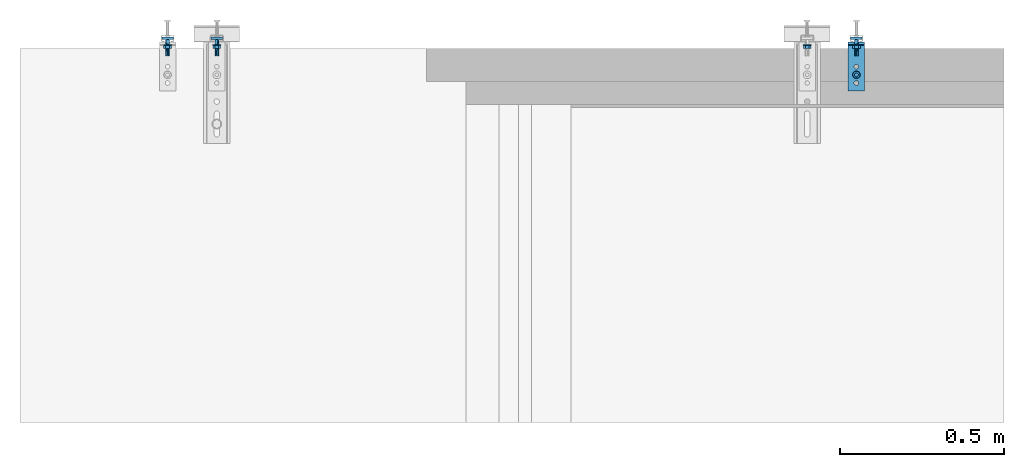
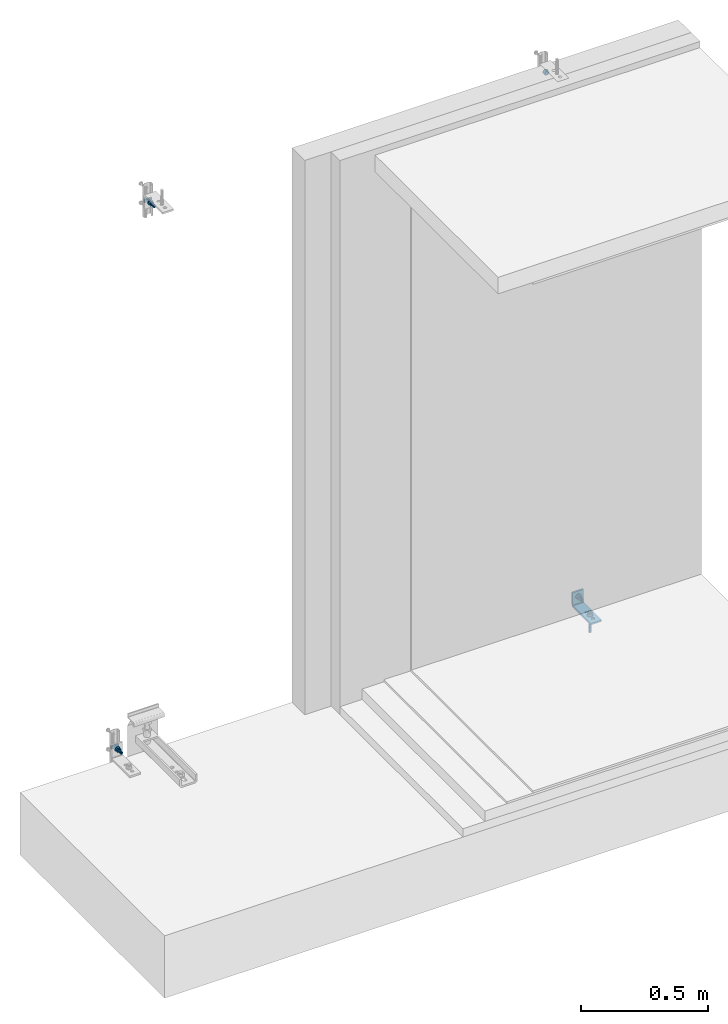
# One storey, part 5 of 7: 13 assemblies, 4 openings.
"""IFC2X3 building model written with IfcOpenShell, lengths in metres."""

from ifc_helpers import new_model, entity, si_unit, converted_unit, derived_unit, direction, frame, frame_2d, origin, place, context, subcontext, project, spatial, polyline, circle_curve, parameter, trimmed, segment, composite_curve, circle, hollow_circle, outline, extrude, faceted_brep, source, transform, mapped, material, type_object, type_shapes, element, save


model = new_model("IFC2X3")

# Units and contexts
model_context = context("Model", 3, precision=1e-05, world=origin(), true_north=direction((6.123031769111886e-17, 1.0)))
body_context = subcontext(model_context, "Body", "Model", "MODEL_VIEW")
ifc_project = project(units=[si_unit("LENGTHUNIT", "METRE"), si_unit("AREAUNIT", "SQUARE_METRE"), converted_unit("PLANEANGLEUNIT", "DEGREE", entity("IfcPlaneAngleMeasure", 0.017453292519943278), si_unit("PLANEANGLEUNIT", "RADIAN"), dimensions=[0, 0, 0, 0, 0, 0, 0]), si_unit("VOLUMEUNIT", "CUBIC_METRE"), derived_unit("THERMALTRANSMITTANCEUNIT", [(si_unit("MASSUNIT", "GRAM", prefix="KILO"), 1), (si_unit("THERMODYNAMICTEMPERATUREUNIT", "KELVIN"), -1), (si_unit("TIMEUNIT", "SECOND"), -3)]), derived_unit("USERDEFINED", [(si_unit("MASSUNIT", "GRAM", prefix="KILO"), 1), (si_unit("THERMODYNAMICTEMPERATUREUNIT", "KELVIN"), -1), (si_unit("TIMEUNIT", "SECOND"), -2)]), derived_unit("THERMALRESISTANCEUNIT", [(si_unit("MASSUNIT", "GRAM", prefix="KILO"), -1), (si_unit("TIMEUNIT", "SECOND"), 3), (si_unit("THERMODYNAMICTEMPERATUREUNIT", "KELVIN"), 1)]), derived_unit("MASSDENSITYUNIT", [(si_unit("MASSUNIT", "GRAM", prefix="KILO"), 1), (si_unit("LENGTHUNIT", "METRE"), -3)]), derived_unit("VAPORPERMEABILITYUNIT", [(si_unit("LENGTHUNIT", "METRE"), -1), (si_unit("TIMEUNIT", "SECOND"), 1)]), derived_unit("USERDEFINED", [(si_unit("MASSUNIT", "GRAM", prefix="KILO"), 1), (si_unit("TIMEUNIT", "SECOND"), -3), (si_unit("LENGTHUNIT", "METRE"), 3), (si_unit("ELECTRICCURRENTUNIT", "AMPERE"), -2)]), si_unit("PRESSUREUNIT", "PASCAL")], contexts=[model_context])

# Site, building, storey
site_placement = place(None, origin())
site = spatial("IfcSite", under=ifc_project, at=site_placement, Name="Default", CompositionType="ELEMENT")
building_placement = place(site_placement, origin())
building = spatial("IfcBuilding", under=site, at=building_placement, CompositionType="ELEMENT")
storey_placement = place(building_placement, origin())
storey = spatial("IfcBuildingStorey", under=building, at=storey_placement, Name="L0", CompositionType="ELEMENT", Elevation=0.0)

# Assemblies
ifc_material = material(Name="REC_Acero, S 275JR (Zincado)")
type_product_1 = type_object("IfcTypeProduct", Name="REC-TPH1250:TPH1250", material=ifc_material)
shared_shape_1 = source(origin(), body_context, "Body", "Brep", [
    faceted_brep([(-0.005512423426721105, 0.006999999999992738, 0.04999470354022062), (-0.005512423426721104, 0.006999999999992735, 0.050994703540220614), (-0.017500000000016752, 0.006999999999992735, 0.050994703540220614), (-0.017500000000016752, 0.006999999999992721, 0.05849470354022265), (0.01750000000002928, 0.006999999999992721, 0.05849470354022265), (0.01750000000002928, 0.006999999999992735, 0.0509947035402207), (0.00551242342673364, 0.006999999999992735, 0.0509947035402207), (0.00551242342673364, 0.006999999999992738, 0.04999470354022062), (-0.005512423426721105, -0.007000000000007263, 0.04999470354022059), (0.00551242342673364, -0.007000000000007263, 0.04999470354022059), (0.00551242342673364, -0.007000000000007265, 0.05099470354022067), (0.01750000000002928, -0.007000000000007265, 0.05099470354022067), (0.01750000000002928, -0.007000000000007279, 0.058494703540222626), (-0.017500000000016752, -0.007000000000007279, 0.058494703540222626), (-0.017500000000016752, -0.007000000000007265, 0.050994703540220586), (-0.005512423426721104, -0.007000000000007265, 0.050994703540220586)], [[[0, 1, 2, 3, 4, 5, 6, 7]], [[8, 9, 10, 11, 12, 13, 14, 15]], [[1, 0, 8, 15]], [[3, 2, 14, 13]], [[4, 3, 13, 12]], [[5, 4, 12, 11]], [[6, 5, 11, 10]], [[7, 6, 10, 9]], [[0, 7, 9, 8]], [[2, 1, 15, 14]]]),
    faceted_brep([(0.002796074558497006, -0.002860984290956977, 0.0489420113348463), (-3.2352566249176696e-05, -0.004032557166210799, 0.0489420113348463), (-0.0028607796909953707, -0.002860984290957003, 0.0489420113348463), (-0.004032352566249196, -3.255716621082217e-05, 0.048942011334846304), (-0.0028607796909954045, 0.0027958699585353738, 0.048942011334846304), (-3.235256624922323e-05, 0.0039674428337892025, 0.04894201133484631), (0.0027960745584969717, 0.0027958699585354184, 0.048942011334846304), (0.00396764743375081, -3.2557166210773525e-05, 0.048942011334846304), (0.002796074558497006, -0.002860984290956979, 0.0499947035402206), (0.00396764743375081, -3.255716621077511e-05, 0.04999470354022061), (0.0027960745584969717, 0.0027958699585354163, 0.04999470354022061), (-3.235256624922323e-05, 0.0039674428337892, 0.04999470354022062), (-0.0028607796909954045, 0.0027958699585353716, 0.04999470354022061), (-0.004032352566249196, -3.2557166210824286e-05, 0.04999470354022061), (-0.0028607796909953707, -0.002860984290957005, 0.0499947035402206), (-3.2352566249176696e-05, -0.0040325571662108, 0.0499947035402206)], [[[0, 1, 2, 3, 4, 5, 6, 7]], [[8, 9, 10, 11, 12, 13, 14, 15]], [[1, 0, 8, 15]], [[2, 1, 15, 14]], [[3, 2, 14, 13]], [[4, 3, 13, 12]], [[5, 4, 12, 11]], [[6, 5, 11, 10]], [[7, 6, 10, 9]], [[0, 7, 9, 8]]]),
    faceted_brep([(0.004541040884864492, -0.00392160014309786, 0.0), (0.0008991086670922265, -0.005932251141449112, 0.0), (0.0008991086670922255, 0.00593225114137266, 0.0), (0.004555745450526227, 0.0039045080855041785, 0.0), (0.005999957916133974, -2.2472309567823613e-05, 0.0), (-0.0008991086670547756, -0.005932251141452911, 0.0), (-0.004556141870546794, -0.00390404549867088, 0.0), (-0.005999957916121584, 2.2472309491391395e-05, 0.0), (-0.004541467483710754, 0.0039211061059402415, 0.0), (-0.0008991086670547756, 0.005932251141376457, 0.0), (2.2472309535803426e-05, 0.0059999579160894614, 0.04894201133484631), (-0.0015311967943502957, 0.005801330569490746, 0.04894201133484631), (-0.002980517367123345, 0.005207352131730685, 0.04894201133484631), (-0.004226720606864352, 0.004258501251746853, 0.04894201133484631), (-0.005184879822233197, 0.0030194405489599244, 0.04894201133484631), (-0.005789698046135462, 0.0015746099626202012, 0.048942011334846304), (-0.005999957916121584, 2.247230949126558e-05, 0.048942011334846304), (-0.005801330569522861, -0.0015311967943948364, 0.048942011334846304), (-0.005207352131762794, -0.0029805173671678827, 0.0489420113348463), (-0.004258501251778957, -0.004226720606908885, 0.0489420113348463), (-0.003019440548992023, -0.005184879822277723, 0.0489420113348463), (-0.001574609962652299, -0.005789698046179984, 0.0489420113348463), (-2.2472309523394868e-05, -0.005999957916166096, 0.0489420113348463), (0.0015311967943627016, -0.005801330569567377, 0.0489420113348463), (0.002980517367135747, -0.005207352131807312, 0.0489420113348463), (0.0042267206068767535, -0.004258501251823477, 0.0489420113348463), (0.005184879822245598, -0.0030194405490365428, 0.0489420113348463), (0.005789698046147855, -0.0015746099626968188, 0.048942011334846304), (0.005999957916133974, -2.2472309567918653e-05, 0.048942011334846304), (0.005801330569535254, 0.0015311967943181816, 0.048942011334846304), (0.005207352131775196, 0.002980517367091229, 0.04894201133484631), (0.004258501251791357, 0.004226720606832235, 0.04894201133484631), (0.0030194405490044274, 0.005184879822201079, 0.04894201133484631), (0.0015746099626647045, 0.005789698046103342, 0.04894201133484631), (0.0008991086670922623, -0.005932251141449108, 0.0014985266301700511), (0.0, -0.0060000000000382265, 0.0014985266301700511), (-0.000899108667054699, -0.005932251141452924, 0.0014985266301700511), (-0.0008991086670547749, 0.005932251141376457, 0.001498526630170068), (0.0, 0.00599999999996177, 0.001498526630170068), (0.0008991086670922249, 0.005932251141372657, 0.001498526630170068)], [[[0, 1, 2, 3, 4]], [[5, 6, 7, 8, 9]], [[10, 11, 12, 13, 14, 15, 16, 17, 18, 19, 20, 21, 22, 23, 24, 25, 26, 27, 28, 29, 30, 31, 32, 33]], [[4, 28, 27]], [[0, 26, 25]], [[27, 26, 0]], [[25, 24, 34]], [[27, 0, 4]], [[24, 23, 34]], [[25, 34, 0]], [[34, 1, 0]], [[22, 35, 34]], [[34, 23, 22]], [[36, 22, 21]], [[36, 20, 19]], [[21, 20, 36]], [[19, 18, 6]], [[5, 36, 6]], [[36, 19, 6]], [[17, 16, 7]], [[17, 7, 6]], [[18, 17, 6]], [[36, 35, 22]], [[7, 16, 15]], [[8, 14, 13]], [[15, 14, 8]], [[13, 12, 37]], [[15, 8, 7]], [[12, 11, 37]], [[13, 37, 8]], [[37, 9, 8]], [[10, 38, 37]], [[37, 11, 10]], [[39, 10, 33]], [[39, 32, 31]], [[33, 32, 39]], [[31, 30, 3]], [[2, 39, 3]], [[39, 31, 3]], [[29, 28, 4]], [[29, 4, 3]], [[30, 29, 3]], [[39, 38, 10]], [[36, 5, 9, 37]], [[34, 35, 36, 37, 38, 39]], [[34, 39, 2, 1]]]),
])
type_shapes(type_product_1, [shared_shape_1])
for number, where, z_axis, x_axis, name in (
    (1, (5.487720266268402, 15.9115355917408, 2.6250000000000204), (0.0, 1.0, 0.0), (-1.0, 0.0, 0.0), "REC-TPH1250:TPH1250"),
    (2, (5.337720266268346, 15.911535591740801, 0.044999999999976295), (0.0, 1.0, 0.0), (1.0, 0.0, 0.0), "REC-TPH1250:TPH1250"),
    (3, (7.437720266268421, 15.911535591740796, 0.044999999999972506), (0.0, 1.0, 0.0), (1.0, 0.0, 0.0), "REC-TPH1250:TPH1250"),
):
    element("IfcElementAssembly", number, at=place(storey_placement, frame(where, z_axis=z_axis, x_axis=x_axis)), inside=storey, type_object=type_product_1, material=ifc_material, Name=name, ObjectType="REC-TPH1250:TPH1250", AssemblyPlace="NOTDEFINED", PredefinedType="NOTDEFINED", context=body_context, shape_type="MappedRepresentation", body=[
        mapped(shared_shape_1, transform((0.0, 0.0, 0.0), scale=1.0)),
    ])
type_product_2 = type_object("IfcTypeProduct", Name="REC-AEM12-100:AEM12-100", material=ifc_material)
shared_shape_2 = source(origin(), body_context, "Body", "SweptSolid", [
    extrude(outline(polyline([(-0.005890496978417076, -0.010202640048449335), (0.005890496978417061, -0.010202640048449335), (0.01178099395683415, 0.0), (0.005890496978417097, 0.010202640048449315), (-0.0058904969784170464, 0.010202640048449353), (-0.011780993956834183, 0.0), (-0.005890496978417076, -0.010202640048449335)]), holes=[composite_curve([segment(trimmed(circle_curve(frame_2d((6.043164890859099e-09, 0.0), x_axis=(1.0, 0.0)), 0.005999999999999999), [parameter(3.053332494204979e-13)], [parameter(180.0)], True, "PARAMETER"), False, "CONTINUOUS"), segment(trimmed(circle_curve(frame_2d((6.043164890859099e-09, 0.0), x_axis=(1.0, 0.0)), 0.005999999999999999), [parameter(179.99999999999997)], [parameter(0.0)], True, "PARAMETER"), False, "CONTINUOUS")], self_intersect=False)]), frame((-6.043164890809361e-09, 0.0, 0.002399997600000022)), (0.0, 0.0, 1.0), 0.009600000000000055),
    extrude(hollow_circle(Radius=0.011999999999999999, WallThickness=0.004999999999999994, at=frame_2d((1.062573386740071e-19, -1.9386534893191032e-17), x_axis=(1.0, 0.0))), origin(), (0.0, 0.0, 1.0), 0.002399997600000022),
    extrude(circle(Radius=0.006, at=frame_2d((1.3218592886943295e-19, -9.69326744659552e-18), x_axis=(1.0, 0.0))), frame((0.0, 0.0, -0.05)), (0.0, 0.0, 1.0), 0.07),
    extrude(circle(Radius=0.006, at=frame_2d((1.3218592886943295e-19, -9.69326744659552e-18), x_axis=(1.0, 0.0))), frame((0.0, 0.0, -0.08)), (0.0, 0.0, 1.0), 0.027000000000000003),
    extrude(circle(Radius=0.005, at=frame_2d((1.3218592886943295e-19, -8.077722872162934e-18), x_axis=(1.0, 0.0))), frame((0.0, 0.0, -0.053)), (0.0, 0.0, 1.0), 0.002999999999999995),
])
type_shapes(type_product_2, [shared_shape_2])
assembly_1_placement = place(storey_placement, frame((7.437720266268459, 15.854530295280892, 0.007999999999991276)))
element("IfcElementAssembly", 4, at=assembly_1_placement, inside=storey, type_object=type_product_2, material=ifc_material, Name="REC-AEM12-100:AEM12-100", ObjectType="REC-AEM12-100:AEM12-100", AssemblyPlace="NOTDEFINED", PredefinedType="NOTDEFINED", context=body_context, shape_type="MappedRepresentation", body=[
    mapped(shared_shape_2, transform((0.0, 0.0, 0.0), scale=1.0)),
])
type_product_3 = type_object("IfcTypeProduct", Name="GEN-A-M12:A-M12", material=ifc_material)
shared_shape_3 = source(origin(), body_context, "Body", "SweptSolid", [
    extrude(hollow_circle(Radius=0.011999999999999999, WallThickness=0.004999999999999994, at=frame_2d((1.062573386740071e-19, -1.9386534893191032e-17), x_axis=(1.0, 0.0))), origin(), (0.0, 0.0, 1.0), 0.002399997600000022),
])
type_shapes(type_product_3, [shared_shape_3])
for number, where, z_axis, x_axis in (
    (5, (5.487720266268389, 15.94653029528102, 2.625000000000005), (0.0, -1.0, 0.0), (-1.0, 0.0, 0.0)),
    (6, (5.337720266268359, 15.946530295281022, 0.04499999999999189), (0.0, -1.0, 0.0), (1.0, 0.0, 0.0)),
    (7, (7.4377202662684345, 15.946530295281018, 0.0449999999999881), (0.0, -1.0, 0.0), (1.0, 0.0, 0.0)),
):
    element("IfcElementAssembly", number, at=place(storey_placement, frame(where, z_axis=z_axis, x_axis=x_axis)), inside=storey, type_object=type_product_3, material=ifc_material, Name="GEN-A-M12:A-M12", ObjectType="GEN-A-M12:A-M12", AssemblyPlace="NOTDEFINED", PredefinedType="NOTDEFINED", context=body_context, shape_type="MappedRepresentation", body=[
        mapped(shared_shape_3, transform((0.0, 0.0, 0.0), scale=1.0)),
    ])
type_product_4 = type_object("IfcTypeProduct", Name="GEN-T-M12:T-M12", material=ifc_material)
shared_shape_4 = source(origin(), body_context, "Body", "SweptSolid", [
    extrude(outline(polyline([(-0.005890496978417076, -0.010202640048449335), (0.005890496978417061, -0.010202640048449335), (0.01178099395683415, 0.0), (0.005890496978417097, 0.010202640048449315), (-0.0058904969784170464, 0.010202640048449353), (-0.011780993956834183, 0.0), (-0.005890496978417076, -0.010202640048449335)]), holes=[composite_curve([segment(trimmed(circle_curve(frame_2d((6.043164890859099e-09, 0.0), x_axis=(1.0, 0.0)), 0.005999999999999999), [parameter(3.053332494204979e-13)], [parameter(180.0)], True, "PARAMETER"), False, "CONTINUOUS"), segment(trimmed(circle_curve(frame_2d((6.043164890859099e-09, 0.0), x_axis=(1.0, 0.0)), 0.005999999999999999), [parameter(179.99999999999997)], [parameter(0.0)], True, "PARAMETER"), False, "CONTINUOUS")], self_intersect=False)]), frame((-6.043164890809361e-09, 0.0, 0.0)), (0.0, 0.0, 1.0), 0.01),
])
type_shapes(type_product_4, [shared_shape_4])
for number, where, z_axis, x_axis in (
    (8, (5.48772026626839, 15.94413029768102, 2.625000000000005), (0.0, -1.0, 0.0), (-1.0, 0.0, 0.0)),
    (9, (5.3377202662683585, 15.944130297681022, 0.04499999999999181), (0.0, -1.0, 0.0), (1.0, 0.0, 0.0)),
    (10, (7.437720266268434, 15.944130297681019, 0.04499999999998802), (0.0, -1.0, 0.0), (1.0, 0.0, 0.0)),
):
    element("IfcElementAssembly", number, at=place(storey_placement, frame(where, z_axis=z_axis, x_axis=x_axis)), inside=storey, type_object=type_product_4, material=ifc_material, Name="GEN-T-M12:T-M12", ObjectType="GEN-T-M12:T-M12", AssemblyPlace="NOTDEFINED", PredefinedType="NOTDEFINED", context=body_context, shape_type="MappedRepresentation", body=[
        mapped(shared_shape_4, transform((0.0, 0.0, 0.0), scale=1.0)),
    ])
type_product_5 = type_object("IfcTypeProduct", Name="GEN-A-M12:A-M12", material=ifc_material)
shared_shape_5 = source(origin(), body_context, "Body", "SweptSolid", [
    extrude(hollow_circle(Radius=0.011999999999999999, WallThickness=0.004999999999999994, at=frame_2d((1.062573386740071e-19, -5.4025493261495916e-17), x_axis=(1.0, 0.0))), origin(), (0.0, 0.0, 1.0), 0.002399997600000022),
])
type_shapes(type_product_5, [shared_shape_5])
assembly_2_placement = place(storey_placement, frame((7.287720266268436, 15.946530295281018, 2.625000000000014), z_axis=(0.0, -1.0, 0.0), x_axis=(1.0, 0.0, 0.0)))
element("IfcElementAssembly", 11, at=assembly_2_placement, inside=storey, type_object=type_product_5, material=ifc_material, Name="GEN-A-M12:A-M12", ObjectType="GEN-A-M12:A-M12", AssemblyPlace="NOTDEFINED", PredefinedType="NOTDEFINED", context=body_context, shape_type="MappedRepresentation", body=[
    mapped(shared_shape_5, transform((0.0, 0.0, 0.0), scale=1.0)),
])
type_product_6 = type_object("IfcTypeProduct", Name="GEN-T-M12:T-M12", material=ifc_material)
shared_shape_6 = source(origin(), body_context, "Body", "SweptSolid", [
    extrude(outline(polyline([(-0.005890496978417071, -0.01020264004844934), (0.005890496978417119, -0.01020264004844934), (0.01178099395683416, 0.0), (0.005890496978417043, 0.010202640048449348), (-0.0058904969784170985, 0.010202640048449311), (-0.011780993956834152, 0.0), (-0.005890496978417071, -0.01020264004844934)]), holes=[composite_curve([segment(trimmed(circle_curve(frame_2d((-3.0215824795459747e-09, 5.2335342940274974e-09), x_axis=(-0.49999999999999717, 0.8660254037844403)), 0.005999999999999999), [parameter(0.0)], [parameter(180.00000000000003)], True, "PARAMETER"), False, "CONTINUOUS"), segment(trimmed(circle_curve(frame_2d((-3.0215824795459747e-09, 5.2335342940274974e-09), x_axis=(-0.49999999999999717, 0.8660254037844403)), 0.005999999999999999), [parameter(180.0)], [parameter(359.9999999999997)], True, "PARAMETER"), False, "CONTINUOUS")], self_intersect=False)]), frame((-6.04316488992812e-09, 0.0, 0.0), z_axis=(0.0, 0.0, 1.0), x_axis=(-0.4999999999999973, -0.8660254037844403, 0.0)), (0.0, 0.0, 1.0), 0.01),
])
type_shapes(type_product_6, [shared_shape_6])
assembly_3_placement = place(storey_placement, frame((7.287720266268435, 15.944130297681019, 2.625000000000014), z_axis=(0.0, -1.0, 0.0), x_axis=(1.0, 0.0, 0.0)))
element("IfcElementAssembly", 12, at=assembly_3_placement, inside=storey, type_object=type_product_6, material=ifc_material, Name="GEN-T-M12:T-M12", ObjectType="GEN-T-M12:T-M12", AssemblyPlace="NOTDEFINED", PredefinedType="NOTDEFINED", context=body_context, shape_type="MappedRepresentation", body=[
    mapped(shared_shape_6, transform((0.0, 0.0, 0.0), scale=1.0)),
])

# Assembly, openings
type_product_7 = type_object("IfcTypeProduct", Name="REC-PAA150708T14:PAA150708T14", material=ifc_material)
shared_shape_7 = source(origin(), body_context, "Body", "SweptSolid", [
    extrude(outline(polyline([(-0.0007712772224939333, -0.01619336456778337), (-0.057656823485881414, -0.0048781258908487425), (-0.05921754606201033, -0.012724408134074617), (-0.0023319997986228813, -0.02403964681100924), (0.0005526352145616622, -0.02425790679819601), (0.003405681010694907, -0.023779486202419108), (0.0060613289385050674, -0.02263218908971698), (0.008365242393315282, -0.020882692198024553), (0.010183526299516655, -0.018632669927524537), (0.011565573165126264, -0.015681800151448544), (0.03870097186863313, 0.12073706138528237), (0.030854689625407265, 0.12229778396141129), (0.003932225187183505, -0.013050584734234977), (0.003334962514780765, -0.01449250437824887), (0.002231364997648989, -0.015596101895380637), (0.0007894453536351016, -0.016193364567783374), (-0.0007712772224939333, -0.01619336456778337)])), frame((-0.024999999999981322, 0.014402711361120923, 0.024032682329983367), z_axis=(-1.0, 0.0, 0.0), x_axis=(0.0, -0.9807852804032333, 0.19509032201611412)), (0.0, 0.0, -1.0), 0.04999999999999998),
])
type_shapes(type_product_7, [shared_shape_7])
assembly_4_placement = place(storey_placement, frame((7.43772026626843, 15.95453029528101, 0.0), z_axis=(0.0, -1.0, 0.0), x_axis=(1.0, 0.0, 0.0)))
assembly_4 = element("IfcElementAssembly", 13, at=assembly_4_placement, inside=storey, type_object=type_product_7, material=ifc_material, Name="REC-PAA150708T14:PAA150708T14", ObjectType="REC-PAA150708T14:PAA150708T14", AssemblyPlace="NOTDEFINED", PredefinedType="NOTDEFINED", context=body_context, shape_type="MappedRepresentation", body=[
    mapped(shared_shape_7, transform((0.0, 0.0, 0.0), scale=1.0)),
])
opening_1_placement = place(storey_placement, frame((7.43772026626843, 15.95453029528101, 0.0), z_axis=(0.0, 0.0, -1.0), x_axis=(1.0, 0.0, 0.0)))
element("IfcOpeningElement", 14, at=opening_1_placement, cuts=assembly_4, Name="REC-PAA150708T14:PAA150708T14:1", ObjectType="Opening", context=body_context, shape_type="SweptSolid", body=[
    extrude(circle(Radius=0.007, at=frame_2d((0.0, -1.752606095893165e-17), x_axis=(1.0, 0.0))), frame((0.0, 0.00799999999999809, -0.04500000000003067), z_axis=(0.0, -1.0, 0.0), x_axis=(0.0, 0.0, 1.0)), (0.0, 0.0, 1.0), 0.008000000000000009),
])
opening_2_placement = place(storey_placement, frame((7.43772026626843, 15.95453029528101, 0.0), z_axis=(0.0, 0.0, -1.0), x_axis=(1.0, 0.0, 0.0)))
element("IfcOpeningElement", 15, at=opening_2_placement, cuts=assembly_4, Name="REC-PAA150708T14:PAA150708T14:2", ObjectType="Opening", context=body_context, shape_type="SweptSolid", body=[
    extrude(circle(Radius=0.007, at=frame_2d((6.283419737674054e-33, 3.537250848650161e-18), x_axis=(1.0, 0.0))), frame((0.0, 0.12499999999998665, 0.0), z_axis=(0.0, 0.0, -1.0), x_axis=(0.0, -1.0, 0.0)), (0.0, 0.0, 1.0), 0.008000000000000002),
])
opening_3_placement = place(storey_placement, frame((7.43772026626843, 15.95453029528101, 0.0), z_axis=(0.0, 0.0, -1.0), x_axis=(1.0, 0.0, 0.0)))
element("IfcOpeningElement", 16, at=opening_3_placement, cuts=assembly_4, Name="REC-PAA150708T14:PAA150708T14:3", ObjectType="Opening", context=body_context, shape_type="SweptSolid", body=[
    extrude(circle(Radius=0.007, at=frame_2d((6.283419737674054e-33, 3.537250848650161e-18), x_axis=(1.0, 0.0))), frame((0.0, 0.09999999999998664, 0.0), z_axis=(0.0, 0.0, -1.0), x_axis=(0.0, -1.0, 0.0)), (0.0, 0.0, 1.0), 0.008000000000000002),
])
opening_4_placement = place(storey_placement, frame((7.43772026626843, 15.95453029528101, 0.0), z_axis=(0.0, 0.0, -1.0), x_axis=(1.0, 0.0, 0.0)))
element("IfcOpeningElement", 17, at=opening_4_placement, cuts=assembly_4, Name="REC-PAA150708T14:PAA150708T14:4", ObjectType="Opening", context=body_context, shape_type="SweptSolid", body=[
    extrude(circle(Radius=0.007, at=frame_2d((8.4598994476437e-18, 3.537250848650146e-18), x_axis=(1.0, 0.0))), frame((0.0, 0.07499999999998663, 0.0), z_axis=(0.0, 0.0, -1.0), x_axis=(0.0, -1.0, 0.0)), (0.0, 0.0, 1.0), 0.008000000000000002),
])

save(model, "model.ifc")
